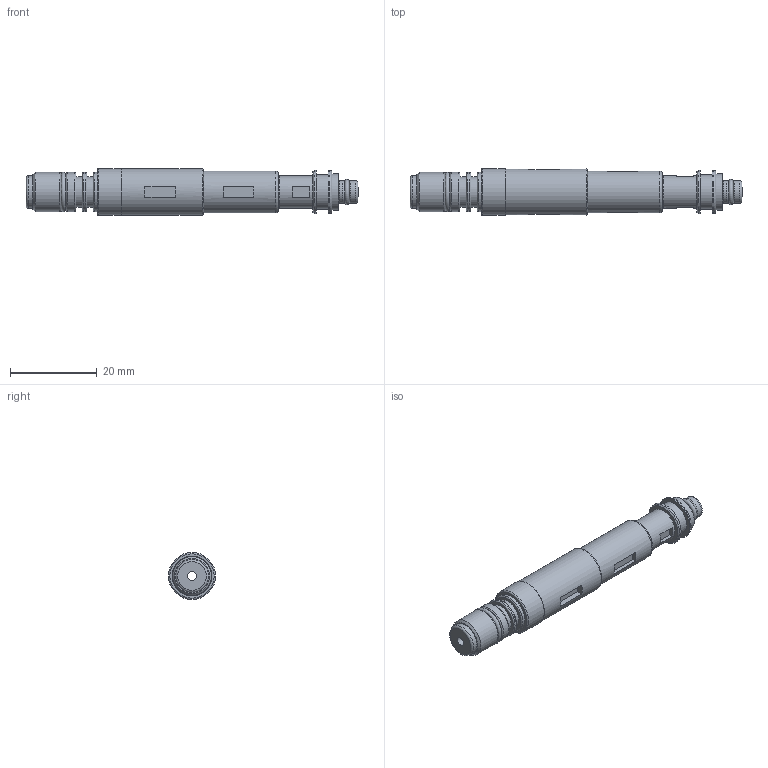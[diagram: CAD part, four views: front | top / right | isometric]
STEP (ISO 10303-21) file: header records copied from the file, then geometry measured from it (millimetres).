
FILE_DESCRIPTION( ( 'Unknown' ), '1' );
FILE_NAME( 'C:/Documents and Settings/Owner/官帕 拳搁/VC203(NEW).stp', 'Unknown', ( 'Unknown' ), ( 'Unknown' ), 'PSStep 10.0', 'Unknown', ' ' );
FILE_SCHEMA( ( 'AUTOMOTIVE_DESIGN { 1 0 10303 214 1 1 1 1 }' ) );
Length unit declared in the file: millimetre
Products named in the file (1): 1
Bounding box: 76.5 x 10.8 x 10.8 mm (x, y, z)
Volume: 4807.6 mm3; surface area: 3232.3 mm2
Topology: 1 solids, 1 shells, 96 faces, 181 edges, 114 vertices
Faces by surface type: plane 53, cylinder 22, torus 18, cone 2, revolution 1
Full cylindrical faces by diameter (mm): 2 x1, 3.8 x2, 5.2 x2, 7 x2, 7.4 x2, 7.6 x2, 8 x1, 8.4 x1, 9 x4, 9.6 x1, 10 x2, 10.6 x1, 10.8 x1
Entity records: 2979 total; most frequent: DIRECTION 409, CARTESIAN_POINT 353, ORIENTED_EDGE 276, AXIS2_PLACEMENT_3D 174, EDGE_LOOP 168, EDGE_CURVE 138, FACE_OUTER_BOUND 137, VERTEX_POINT 114
